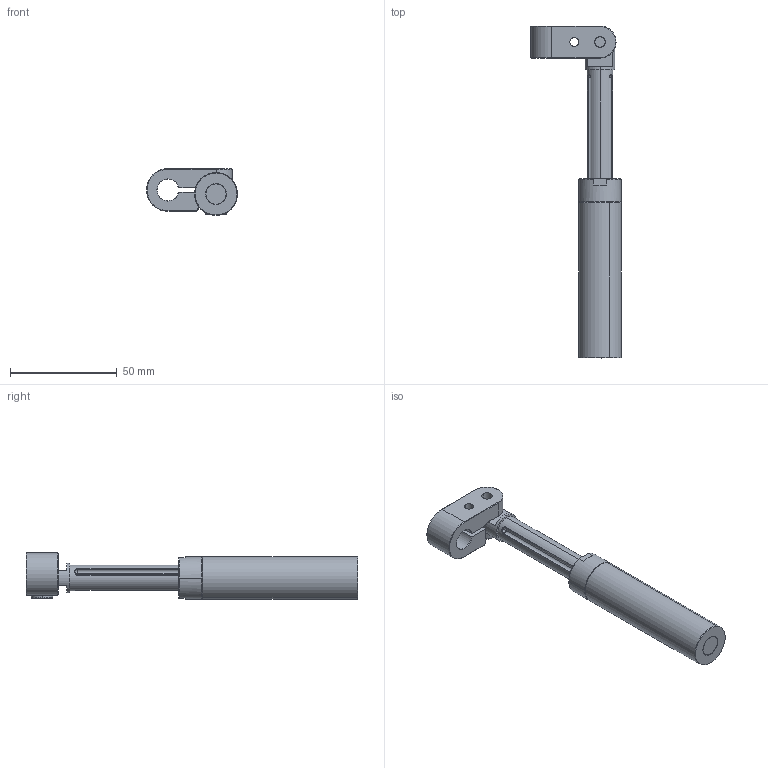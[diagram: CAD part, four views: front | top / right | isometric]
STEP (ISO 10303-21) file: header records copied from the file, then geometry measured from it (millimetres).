
FILE_DESCRIPTION (( 'STEP AP214' ), '1' );
FILE_NAME ('GSR2051-10.STEP', '2019-12-09T06:26:38', ( '微软用户' ), ( '微软中国' ), 'SwSTEP 2.0', 'SolidWorks 2016', '' );
FILE_SCHEMA (( 'AUTOMOTIVE_DESIGN' ));
Length unit declared in the file: millimetre
Products named in the file (1): GSR2051-10
Bounding box: 42.5 x 155.5 x 21.9 mm (x, y, z)
Volume: 38228.5 mm3; surface area: 20363.9 mm2
Topology: 5 solids, 5 shells, 254 faces, 628 edges, 395 vertices
Faces by surface type: cylinder 94, cone 67, plane 63, sphere 14, bspline 12, torus 4
Entity records: 16611 total; most frequent: CARTESIAN_POINT 7897, ORIENTED_EDGE 1252, DIRECTION 1240, EDGE_CURVE 626, AXIS2_PLACEMENT_3D 494, VERTEX_POINT 395, EDGE_LOOP 285, ADVANCED_FACE 254
